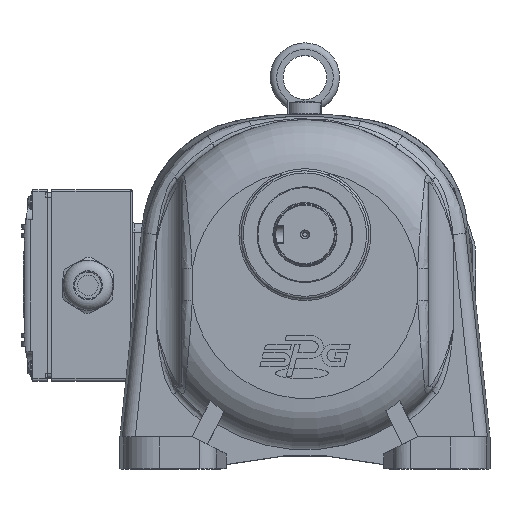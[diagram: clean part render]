
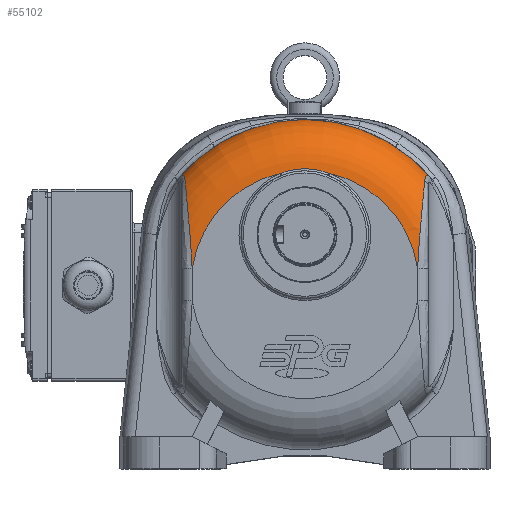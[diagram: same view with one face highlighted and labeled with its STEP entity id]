
A CAD part, top view. The second image highlights one B-rep face of the part: STEP entity #55102.
In plain terms, the highlighted toroidal (fillet/blend) face has major radius 53.545 mm and minor radius 24 mm.
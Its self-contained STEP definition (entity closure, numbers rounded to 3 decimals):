
#1495=TOROIDAL_SURFACE('',#60312,53.545,24.);
#8179=FACE_OUTER_BOUND('',#11511,.T.);
#11511=EDGE_LOOP('',(#48453,#48454,#48455,#48456,#48457,#48458,#48459,#48460));
#14038=B_SPLINE_CURVE_WITH_KNOTS('',3,(#124580,#124581,#124582,#124583,
#124584,#124585,#124586),.UNSPECIFIED.,.F.,.F.,(4,1,1,1,4),(-0.961,
-0.686,-0.412,-0.275,0.),
 .UNSPECIFIED.);
#14039=B_SPLINE_CURVE_WITH_KNOTS('',3,(#124588,#124589,#124590,#124591,
#124592,#124593,#124594,#124595,#124596),.UNSPECIFIED.,.F.,.F.,(4,1,1,1,
1,1,4),(-4.098,-2.927,-2.342,-1.756,
-1.171,-0.585,0.),.UNSPECIFIED.);
#14040=B_SPLINE_CURVE_WITH_KNOTS('',3,(#124600,#124601,#124602,#124603,
#124604),.UNSPECIFIED.,.F.,.F.,(4,1,4),(-3.142,-0.449,
3.142),.UNSPECIFIED.);
#14041=B_SPLINE_CURVE_WITH_KNOTS('',3,(#124608,#124609,#124610,#124611,
#124612,#124613,#124614,#124615,#124616),.UNSPECIFIED.,.F.,.F.,(4,1,1,1,
1,1,4),(-9.723,-9.138,-8.553,-7.967,
-7.382,-6.796,-5.626),.UNSPECIFIED.);
#14042=B_SPLINE_CURVE_WITH_KNOTS('',3,(#124617,#124618,#124619,#124620,
#124621,#124622,#124623),.UNSPECIFIED.,.F.,.F.,(4,1,1,1,4),(-0.961,
-0.686,-0.412,-0.275,0.),
 .UNSPECIFIED.);
#16727=CIRCLE('',#60313,77.539);
#16728=CIRCLE('',#60314,53.545);
#16729=CIRCLE('',#60315,53.545);
#26921=VERTEX_POINT('',#124303);
#26948=VERTEX_POINT('',#124577);
#26949=VERTEX_POINT('',#124579);
#26950=VERTEX_POINT('',#124587);
#26951=VERTEX_POINT('',#124597);
#26952=VERTEX_POINT('',#124599);
#26953=VERTEX_POINT('',#124605);
#26954=VERTEX_POINT('',#124607);
#34359=EDGE_CURVE('',#26948,#26921,#16727,.T.);
#34360=EDGE_CURVE('',#26949,#26921,#14038,.T.);
#34361=EDGE_CURVE('',#26950,#26949,#14039,.T.);
#34362=EDGE_CURVE('',#26950,#26951,#16728,.T.);
#34363=EDGE_CURVE('',#26952,#26951,#14040,.T.);
#34364=EDGE_CURVE('',#26952,#26953,#16729,.T.);
#34365=EDGE_CURVE('',#26954,#26953,#14041,.T.);
#34366=EDGE_CURVE('',#26948,#26954,#14042,.T.);
#48453=ORIENTED_EDGE('',*,*,#34359,.T.);
#48454=ORIENTED_EDGE('',*,*,#34360,.F.);
#48455=ORIENTED_EDGE('',*,*,#34361,.F.);
#48456=ORIENTED_EDGE('',*,*,#34362,.T.);
#48457=ORIENTED_EDGE('',*,*,#34363,.F.);
#48458=ORIENTED_EDGE('',*,*,#34364,.T.);
#48459=ORIENTED_EDGE('',*,*,#34365,.F.);
#48460=ORIENTED_EDGE('',*,*,#34366,.F.);
#55102=ADVANCED_FACE('',(#8179),#1495,.T.);
#60312=AXIS2_PLACEMENT_3D('',#124576,#72538,#72539);
#60313=AXIS2_PLACEMENT_3D('',#124578,#72540,#72541);
#60314=AXIS2_PLACEMENT_3D('',#124598,#72542,#72543);
#60315=AXIS2_PLACEMENT_3D('',#124606,#72544,#72545);
#72538=DIRECTION('center_axis',(0.,0.,-1.));
#72539=DIRECTION('ref_axis',(-1.,0.,0.));
#72540=DIRECTION('center_axis',(0.,0.,1.));
#72541=DIRECTION('ref_axis',(-1.,0.,0.));
#72542=DIRECTION('center_axis',(0.,0.,-1.));
#72543=DIRECTION('ref_axis',(-1.,0.,0.));
#72544=DIRECTION('center_axis',(0.,0.,-1.));
#72545=DIRECTION('ref_axis',(-1.,0.,0.));
#124303=CARTESIAN_POINT('',(-52.02,29.277,12.552));
#124576=CARTESIAN_POINT('Origin',(7.106,-20.887,12.));
#124577=CARTESIAN_POINT('',(66.232,29.277,12.552));
#124578=CARTESIAN_POINT('Origin',(7.106,-20.887,12.552));
#124579=CARTESIAN_POINT('',(-49.215,28.157,23.368));
#124580=CARTESIAN_POINT('Ctrl Pts',(-49.215,28.157,
23.368));
#124581=CARTESIAN_POINT('Ctrl Pts',(-49.272,28.824,22.474));
#124582=CARTESIAN_POINT('Ctrl Pts',(-49.473,29.991,20.476));
#124583=CARTESIAN_POINT('Ctrl Pts',(-50.089,30.558,
17.62));
#124584=CARTESIAN_POINT('Ctrl Pts',(-50.962,30.311,
14.883));
#124585=CARTESIAN_POINT('Ctrl Pts',(-51.588,29.755,
13.422));
#124586=CARTESIAN_POINT('Ctrl Pts',(-52.02,29.277,
12.552));
#124587=CARTESIAN_POINT('',(-45.894,-13.264,36.));
#124588=CARTESIAN_POINT('Ctrl Pts',(-45.894,-13.264,
36.));
#124589=CARTESIAN_POINT('Ctrl Pts',(-46.038,-9.341,
36.));
#124590=CARTESIAN_POINT('Ctrl Pts',(-46.415,-3.385,
35.978));
#124591=CARTESIAN_POINT('Ctrl Pts',(-47.107,4.872,
35.208));
#124592=CARTESIAN_POINT('Ctrl Pts',(-47.671,11.101,34.021));
#124593=CARTESIAN_POINT('Ctrl Pts',(-48.25,17.365,
31.903));
#124594=CARTESIAN_POINT('Ctrl Pts',(-48.79,23.293,
28.572));
#124595=CARTESIAN_POINT('Ctrl Pts',(-49.092,26.737,25.275));
#124596=CARTESIAN_POINT('Ctrl Pts',(-49.215,28.157,
23.368));
#124597=CARTESIAN_POINT('',(-4.35,31.418,36.));
#124598=CARTESIAN_POINT('Origin',(7.106,-20.887,36.));
#124599=CARTESIAN_POINT('',(18.562,31.418,36.));
#124600=CARTESIAN_POINT('Ctrl Pts',(18.562,31.418,36.));
#124601=CARTESIAN_POINT('Ctrl Pts',(15.446,32.635,36.));
#124602=CARTESIAN_POINT('Ctrl Pts',(7.707,34.313,35.965));
#124603=CARTESIAN_POINT('Ctrl Pts',(-0.194,33.04,
36.));
#124604=CARTESIAN_POINT('Ctrl Pts',(-4.35,31.418,36.));
#124605=CARTESIAN_POINT('',(60.106,-13.264,36.));
#124606=CARTESIAN_POINT('Origin',(7.106,-20.887,36.));
#124607=CARTESIAN_POINT('',(63.427,28.157,23.368));
#124608=CARTESIAN_POINT('Ctrl Pts',(63.427,28.157,23.368));
#124609=CARTESIAN_POINT('Ctrl Pts',(63.304,26.737,25.275));
#124610=CARTESIAN_POINT('Ctrl Pts',(63.002,23.293,28.572));
#124611=CARTESIAN_POINT('Ctrl Pts',(62.463,17.365,31.903));
#124612=CARTESIAN_POINT('Ctrl Pts',(61.883,11.101,34.021));
#124613=CARTESIAN_POINT('Ctrl Pts',(61.319,4.872,35.208));
#124614=CARTESIAN_POINT('Ctrl Pts',(60.627,-3.385,35.978));
#124615=CARTESIAN_POINT('Ctrl Pts',(60.251,-9.341,36.));
#124616=CARTESIAN_POINT('Ctrl Pts',(60.106,-13.264,
36.));
#124617=CARTESIAN_POINT('Ctrl Pts',(66.232,29.277,12.552));
#124618=CARTESIAN_POINT('Ctrl Pts',(65.801,29.755,13.422));
#124619=CARTESIAN_POINT('Ctrl Pts',(64.956,30.511,15.383));
#124620=CARTESIAN_POINT('Ctrl Pts',(64.152,30.496,18.229));
#124621=CARTESIAN_POINT('Ctrl Pts',(63.637,29.687,20.985));
#124622=CARTESIAN_POINT('Ctrl Pts',(63.485,28.824,22.474));
#124623=CARTESIAN_POINT('Ctrl Pts',(63.427,28.157,23.368));
